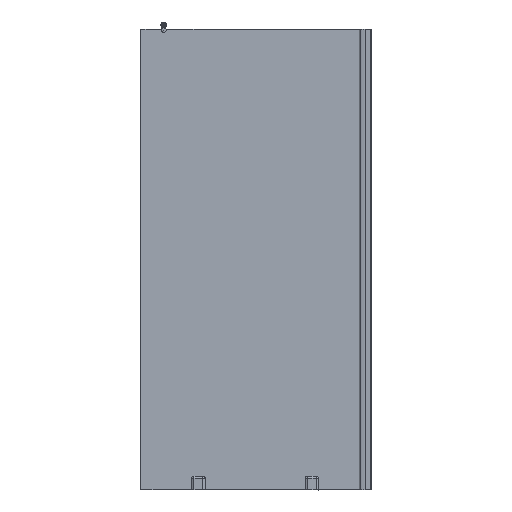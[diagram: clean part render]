
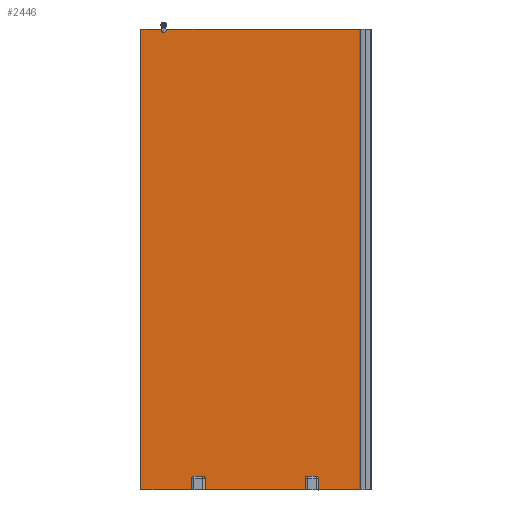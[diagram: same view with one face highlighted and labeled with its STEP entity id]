
A CAD part, front view. The second image highlights one B-rep face of the part: STEP entity #2446.
In plain terms, the highlighted planar face has unit normal (0, -1, 0).
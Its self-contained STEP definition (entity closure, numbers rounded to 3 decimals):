
#45=LINE($,#3727,#196);
#51=LINE($,#3742,#202);
#52=LINE($,#3745,#203);
#67=LINE($,#3827,#218);
#73=LINE($,#3842,#224);
#74=LINE($,#3845,#225);
#95=LINE($,#3988,#246);
#96=LINE($,#3991,#247);
#132=LINE($,#4073,#283);
#139=LINE($,#4088,#290);
#140=LINE($,#4089,#291);
#141=LINE($,#4091,#292);
#142=LINE($,#4092,#293);
#196=VECTOR($,#2927,38.8);
#202=VECTOR($,#2941,48.4);
#203=VECTOR($,#2944,48.4);
#218=VECTOR($,#3013,38.8);
#224=VECTOR($,#3027,48.4);
#225=VECTOR($,#3030,48.4);
#246=VECTOR($,#3115,91.07);
#247=VECTOR($,#3118,841.07);
#283=VECTOR($,#3188,2000.);
#290=VECTOR($,#3207,435.);
#291=VECTOR($,#3208,178.);
#292=VECTOR($,#3209,2000.);
#293=VECTOR($,#3210,221.);
#578=FACE_OUTER_BOUND($,#736,.T.);
#736=EDGE_LOOP($,(#1836,#1837,#1838,#1839,#1840,#1841,#1842,#1843,#1844,
#1845,#1846,#1847,#1848,#1849,#1850,#1851,#1852,#1853));
#862=CIRCLE($,#2576,9.6);
#864=CIRCLE($,#2580,9.6);
#878=CIRCLE($,#2608,9.6);
#880=CIRCLE($,#2612,9.6);
#895=CIRCLE($,#2642,10.);
#991=VERTEX_POINT($,#3717);
#992=VERTEX_POINT($,#3718);
#995=VERTEX_POINT($,#3726);
#997=VERTEX_POINT($,#3732);
#1000=VERTEX_POINT($,#3740);
#1001=VERTEX_POINT($,#3744);
#1017=VERTEX_POINT($,#3817);
#1018=VERTEX_POINT($,#3818);
#1021=VERTEX_POINT($,#3826);
#1023=VERTEX_POINT($,#3832);
#1026=VERTEX_POINT($,#3840);
#1027=VERTEX_POINT($,#3844);
#1045=VERTEX_POINT($,#3921);
#1046=VERTEX_POINT($,#3923);
#1057=VERTEX_POINT($,#3986);
#1058=VERTEX_POINT($,#3990);
#1087=VERTEX_POINT($,#4072);
#1090=VERTEX_POINT($,#4090);
#1221=EDGE_CURVE($,#991,#992,#862,.T.);
#1225=EDGE_CURVE($,#992,#995,#45,.T.);
#1228=EDGE_CURVE($,#995,#997,#864,.T.);
#1233=EDGE_CURVE($,#1000,#991,#51,.T.);
#1234=EDGE_CURVE($,#997,#1001,#52,.T.);
#1261=EDGE_CURVE($,#1017,#1018,#878,.T.);
#1265=EDGE_CURVE($,#1018,#1021,#67,.T.);
#1268=EDGE_CURVE($,#1021,#1023,#880,.T.);
#1273=EDGE_CURVE($,#1026,#1017,#73,.T.);
#1274=EDGE_CURVE($,#1023,#1027,#74,.T.);
#1303=EDGE_CURVE($,#1045,#1046,#895,.T.);
#1317=EDGE_CURVE($,#1057,#1045,#95,.T.);
#1318=EDGE_CURVE($,#1046,#1058,#96,.T.);
#1359=EDGE_CURVE($,#1058,#1087,#132,.T.);
#1367=EDGE_CURVE($,#1000,#1027,#139,.T.);
#1368=EDGE_CURVE($,#1026,#1087,#140,.T.);
#1369=EDGE_CURVE($,#1057,#1090,#141,.T.);
#1370=EDGE_CURVE($,#1090,#1001,#142,.T.);
#1836=ORIENTED_EDGE($,*,*,#1234,.F.);
#1837=ORIENTED_EDGE($,*,*,#1228,.F.);
#1838=ORIENTED_EDGE($,*,*,#1225,.F.);
#1839=ORIENTED_EDGE($,*,*,#1221,.F.);
#1840=ORIENTED_EDGE($,*,*,#1233,.F.);
#1841=ORIENTED_EDGE($,*,*,#1367,.T.);
#1842=ORIENTED_EDGE($,*,*,#1274,.F.);
#1843=ORIENTED_EDGE($,*,*,#1268,.F.);
#1844=ORIENTED_EDGE($,*,*,#1265,.F.);
#1845=ORIENTED_EDGE($,*,*,#1261,.F.);
#1846=ORIENTED_EDGE($,*,*,#1273,.F.);
#1847=ORIENTED_EDGE($,*,*,#1368,.T.);
#1848=ORIENTED_EDGE($,*,*,#1359,.F.);
#1849=ORIENTED_EDGE($,*,*,#1318,.F.);
#1850=ORIENTED_EDGE($,*,*,#1303,.F.);
#1851=ORIENTED_EDGE($,*,*,#1317,.F.);
#1852=ORIENTED_EDGE($,*,*,#1369,.T.);
#1853=ORIENTED_EDGE($,*,*,#1370,.T.);
#2181=PLANE($,#2671);
#2446=ADVANCED_FACE($,(#578),#2181,.F.);
#2576=AXIS2_PLACEMENT_3D($,#3719,#2919,#2920);
#2580=AXIS2_PLACEMENT_3D($,#3733,#2932,#2933);
#2608=AXIS2_PLACEMENT_3D($,#3819,#3005,#3006);
#2612=AXIS2_PLACEMENT_3D($,#3833,#3018,#3019);
#2642=AXIS2_PLACEMENT_3D($,#3924,#3096,#3097);
#2671=AXIS2_PLACEMENT_3D($,#4087,#3205,#3206);
#2919=DIRECTION('center_axis',(0.,-1.,0.));
#2920=DIRECTION('ref_axis',(0.707,0.,0.707));
#2927=DIRECTION($,(-1.,0.,0.));
#2932=DIRECTION('center_axis',(0.,-1.,0.));
#2933=DIRECTION('ref_axis',(-0.707,0.,0.707));
#2941=DIRECTION($,(0.,0.,1.));
#2944=DIRECTION($,(0.,0.,-1.));
#3005=DIRECTION('center_axis',(0.,-1.,0.));
#3006=DIRECTION('ref_axis',(0.707,0.,0.707));
#3013=DIRECTION($,(-1.,0.,0.));
#3018=DIRECTION('center_axis',(0.,-1.,0.));
#3019=DIRECTION('ref_axis',(-0.707,0.,0.707));
#3027=DIRECTION($,(0.,0.,1.));
#3030=DIRECTION($,(0.,0.,-1.));
#3096=DIRECTION('center_axis',(0.,-1.,0.));
#3097=DIRECTION('ref_axis',(0.,0.,
-1.));
#3115=DIRECTION($,(1.,0.,0.));
#3118=DIRECTION($,(1.,0.,0.));
#3188=DIRECTION($,(0.,0.,-1.));
#3205=DIRECTION('center_axis',(0.,1.,0.));
#3206=DIRECTION('ref_axis',(1.,0.,0.));
#3207=DIRECTION($,(1.,0.,0.));
#3208=DIRECTION($,(1.,0.,0.));
#3209=DIRECTION($,(0.,0.,-1.));
#3210=DIRECTION($,(1.,0.,0.));
#3717=CARTESIAN_POINT('',(1559.305,-34.044,-465.656));
#3718=CARTESIAN_POINT('',(1549.705,-34.044,-456.056));
#3719=CARTESIAN_POINT('Origin',(1549.705,-34.044,-465.656));
#3726=CARTESIAN_POINT('',(1510.905,-34.044,-456.056));
#3727=CARTESIAN_POINT($,(1390.805,-34.044,-456.056));
#3732=CARTESIAN_POINT('',(1501.305,-34.044,-465.656));
#3733=CARTESIAN_POINT('Origin',(1510.905,-34.044,-465.656));
#3740=CARTESIAN_POINT('',(1559.305,-34.044,-514.056));
#3742=CARTESIAN_POINT($,(1559.305,-34.044,514.944));
#3744=CARTESIAN_POINT('',(1501.305,-34.044,-514.056));
#3745=CARTESIAN_POINT($,(1501.305,-34.044,485.944));
#3817=CARTESIAN_POINT('',(2052.305,-34.044,-465.656));
#3818=CARTESIAN_POINT('',(2042.705,-34.044,-456.056));
#3819=CARTESIAN_POINT('Origin',(2042.705,-34.044,-465.656));
#3826=CARTESIAN_POINT('',(2003.905,-34.044,-456.056));
#3827=CARTESIAN_POINT($,(1637.305,-34.044,-456.056));
#3832=CARTESIAN_POINT('',(1994.305,-34.044,-465.656));
#3833=CARTESIAN_POINT('Origin',(2003.905,-34.044,-465.656));
#3840=CARTESIAN_POINT('',(2052.305,-34.044,-514.056));
#3842=CARTESIAN_POINT($,(2052.305,-34.044,514.944));
#3844=CARTESIAN_POINT('',(1994.305,-34.044,-514.056));
#3845=CARTESIAN_POINT($,(1994.305,-34.044,485.944));
#3921=CARTESIAN_POINT('',(1371.374,-34.044,1485.944));
#3923=CARTESIAN_POINT('',(1389.235,-34.044,1485.944));
#3924=CARTESIAN_POINT('Origin',(1380.305,-34.044,1481.444));
#3986=CARTESIAN_POINT('',(1280.305,-34.044,1485.944));
#3988=CARTESIAN_POINT($,(1280.305,-34.044,1485.944));
#3990=CARTESIAN_POINT('',(2230.305,-34.044,1485.944));
#3991=CARTESIAN_POINT($,(1280.305,-34.044,1485.944));
#4072=CARTESIAN_POINT('',(2230.305,-34.044,-514.056));
#4073=CARTESIAN_POINT($,(2230.305,-34.044,485.944));
#4087=CARTESIAN_POINT('Origin',(1280.305,-34.044,1485.944));
#4088=CARTESIAN_POINT($,(1280.305,-34.044,-514.056));
#4089=CARTESIAN_POINT($,(1280.305,-34.044,-514.056));
#4090=CARTESIAN_POINT('',(1280.305,-34.044,-514.056));
#4091=CARTESIAN_POINT($,(1280.305,-34.044,1485.944));
#4092=CARTESIAN_POINT($,(1280.305,-34.044,-514.056));
